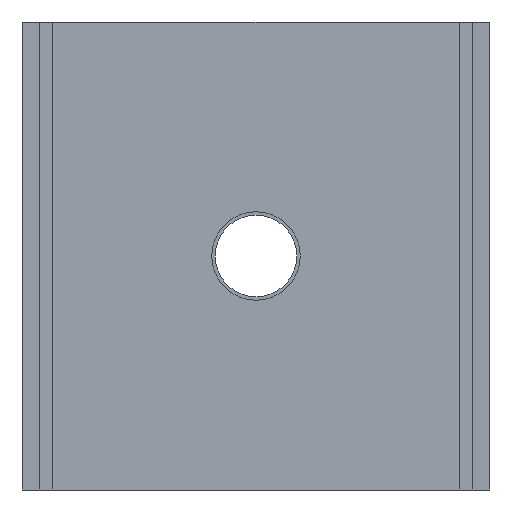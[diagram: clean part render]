
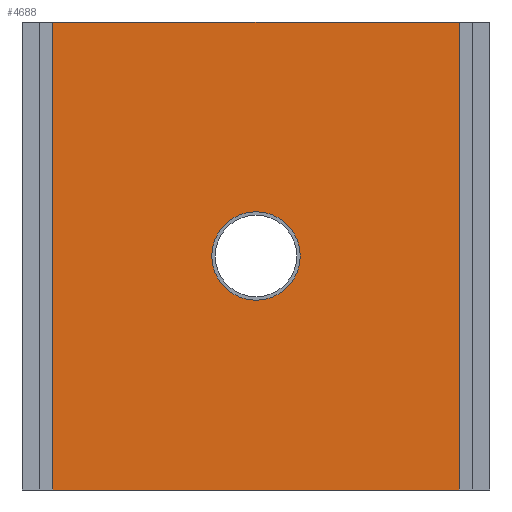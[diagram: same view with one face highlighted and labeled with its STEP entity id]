
A CAD part, front view. The second image highlights one B-rep face of the part: STEP entity #4688.
In plain terms, the highlighted planar face has unit normal (0, -1, 0).
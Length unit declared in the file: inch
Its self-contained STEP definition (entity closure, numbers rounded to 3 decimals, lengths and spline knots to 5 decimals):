
#4010=CARTESIAN_POINT('',(-9.19291,-3.85871,10.57087));
#4011=VERTEX_POINT('',#4010);
#4018=CARTESIAN_POINT('',(9.19291,-3.85871,10.57087));
#4019=VERTEX_POINT('',#4018);
#4020=CARTESIAN_POINT('',(9.19291,-3.85871,10.57087));
#4021=DIRECTION('',(-1.0,0.0,0.0));
#4022=VECTOR('',#4021,18.38583);
#4023=LINE('',#4020,#4022);
#4024=EDGE_CURVE('',#4019,#4011,#4023,.T.);
#4182=CARTESIAN_POINT('',(-2.0,-3.85871,0.));
#4183=VERTEX_POINT('',#4182);
#4184=CARTESIAN_POINT('',(0.0,-3.85871,0.0));
#4185=DIRECTION('',(0.0,1.0,0.0));
#4186=DIRECTION('',(1.0,0.0,0.0));
#4187=AXIS2_PLACEMENT_3D('',#4184,#4185,#4186);
#4188=CIRCLE('',#4187,2.0);
#4189=EDGE_CURVE('',#4183,#4183,#4188,.T.);
#4644=CARTESIAN_POINT('',(9.19291,-3.85871,-10.57087));
#4645=VERTEX_POINT('',#4644);
#4646=CARTESIAN_POINT('',(9.19291,-3.85871,-10.57087));
#4647=DIRECTION('',(0.0,0.0,1.0));
#4648=VECTOR('',#4647,21.14173);
#4649=LINE('',#4646,#4648);
#4650=EDGE_CURVE('',#4645,#4019,#4649,.T.);
#4662=CARTESIAN_POINT('',(9.19291,-3.85871,0.0));
#4663=DIRECTION('',(0.0,-1.0,0.0));
#4664=DIRECTION('',(0.0,0.0,-1.0));
#4665=AXIS2_PLACEMENT_3D('',#4662,#4663,#4664);
#4666=PLANE('',#4665);
#4667=ORIENTED_EDGE('',*,*,#4024,.T.);
#4668=CARTESIAN_POINT('',(-9.19291,-3.85871,-10.57087));
#4669=VERTEX_POINT('',#4668);
#4670=CARTESIAN_POINT('',(-9.19291,-3.85871,-10.57087));
#4671=DIRECTION('',(0.0,0.0,1.0));
#4672=VECTOR('',#4671,21.14173);
#4673=LINE('',#4670,#4672);
#4674=EDGE_CURVE('',#4669,#4011,#4673,.T.);
#4675=ORIENTED_EDGE('',*,*,#4674,.F.);
#4676=CARTESIAN_POINT('',(-9.19291,-3.85871,-10.57087));
#4677=DIRECTION('',(1.0,0.0,0.0));
#4678=VECTOR('',#4677,18.38583);
#4679=LINE('',#4676,#4678);
#4680=EDGE_CURVE('',#4669,#4645,#4679,.T.);
#4681=ORIENTED_EDGE('',*,*,#4680,.T.);
#4682=ORIENTED_EDGE('',*,*,#4650,.T.);
#4683=EDGE_LOOP('',(#4667,#4675,#4681,#4682));
#4684=FACE_OUTER_BOUND('',#4683,.T.);
#4685=ORIENTED_EDGE('',*,*,#4189,.T.);
#4686=EDGE_LOOP('',(#4685));
#4687=FACE_BOUND('',#4686,.T.);
#4688=ADVANCED_FACE('',(#4684,#4687),#4666,.T.);
